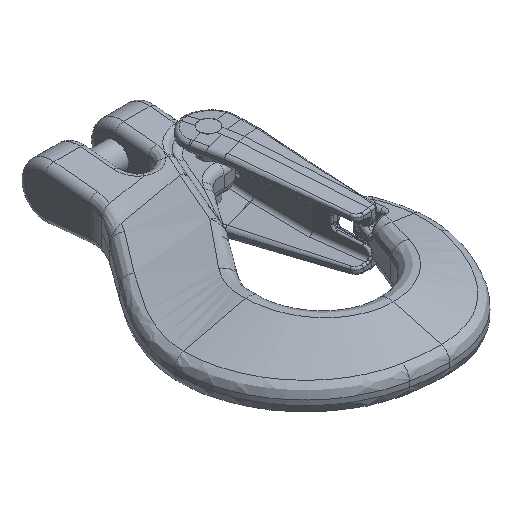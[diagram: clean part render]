
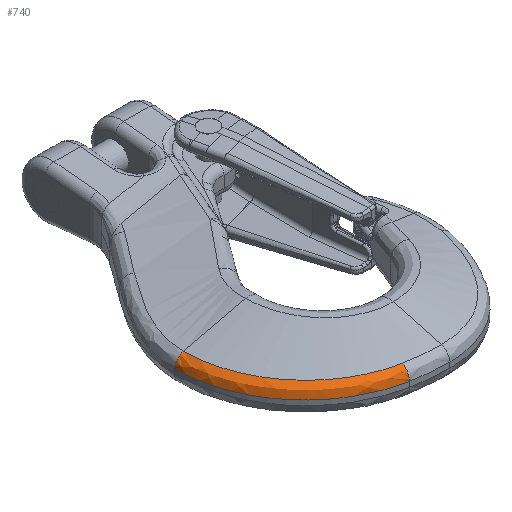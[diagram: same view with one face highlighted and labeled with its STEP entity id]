
A CAD part, isometric view. The second image highlights one B-rep face of the part: STEP entity #740.
In plain terms, the highlighted free-form (B-spline) face has degree [3, 2] with [14, 3] control points.
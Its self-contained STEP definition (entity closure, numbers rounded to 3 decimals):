
#171=(
BOUNDED_SURFACE()
B_SPLINE_SURFACE(3,2,((#13822,#13823,#13824),(#13825,#13826,#13827),(#13828,
#13829,#13830),(#13831,#13832,#13833),(#13834,#13835,#13836),(#13837,#13838,
#13839),(#13840,#13841,#13842),(#13843,#13844,#13845),(#13846,#13847,#13848),
(#13849,#13850,#13851),(#13852,#13853,#13854),(#13855,#13856,#13857),(#13858,
#13859,#13860),(#13861,#13862,#13863)),.UNSPECIFIED.,.F.,.F.,.F.)
B_SPLINE_SURFACE_WITH_KNOTS((4,2,2,2,2,2,4),(3,3),(0.,0.25,0.375,0.5,0.625,
0.75,1.),(0.,1.),.UNSPECIFIED.)
GEOMETRIC_REPRESENTATION_ITEM()
RATIONAL_B_SPLINE_SURFACE(((1.,0.793,1.),(1.,0.792,
1.),(1.,0.79,1.),(1.,0.789,1.),(1.,0.788,
1.),(1.,0.787,1.),(1.,0.787,1.),(1.,0.786,
1.),(1.,0.786,1.),(1.,0.785,1.),(1.,0.785,
1.),(1.,0.784,1.),(1.,0.784,1.),(1.,0.784,
1.)))
REPRESENTATION_ITEM('')
SURFACE()
);
#419=CIRCLE('',#6129,3.);
#740=ADVANCED_FACE('',(#1202),#171,.T.);
#1202=FACE_OUTER_BOUND('',#1571,.T.);
#1571=EDGE_LOOP('',(#3333,#3334,#3335,#3336,#3337));
#2045=B_SPLINE_CURVE_WITH_KNOTS('',3,(#12264,#12265,#12266,#12267,#12268,
#12269,#12270,#12271),.UNSPECIFIED.,.F.,.F.,(4,2,2,4),(0.,0.25,0.5,1.),.UNSPECIFIED.);
#2060=B_SPLINE_CURVE_WITH_KNOTS('',3,(#12428,#12429,#12430,#12431),.UNSPECIFIED.,
.F.,.F.,(4,4),(0.,1.),.UNSPECIFIED.);
#2073=B_SPLINE_CURVE_WITH_KNOTS('',3,(#12628,#12629,#12630,#12631,#12632,
#12633,#12634,#12635),.UNSPECIFIED.,.F.,.F.,(4,2,2,4),(0.,0.5,0.75,1.),.UNSPECIFIED.);
#2091=B_SPLINE_CURVE_WITH_KNOTS('',3,(#13735,#13736,#13737,#13738,#13739,
#13740,#13741,#13742,#13743,#13744),.UNSPECIFIED.,.F.,.F.,(4,3,3,4),(0.,
0.255,0.521,1.),.UNSPECIFIED.);
#3333=ORIENTED_EDGE('',*,*,#4992,.F.);
#3334=ORIENTED_EDGE('',*,*,#4959,.F.);
#3335=ORIENTED_EDGE('',*,*,#5049,.F.);
#3336=ORIENTED_EDGE('',*,*,#5025,.F.);
#3337=ORIENTED_EDGE('',*,*,#5047,.T.);
#4221=VERTEX_POINT('',#10614);
#4250=VERTEX_POINT('',#12262);
#4252=VERTEX_POINT('',#12272);
#4278=VERTEX_POINT('',#12432);
#4301=VERTEX_POINT('',#12636);
#4959=EDGE_CURVE('',#4250,#4252,#2045,.T.);
#4992=EDGE_CURVE('',#4252,#4278,#2060,.T.);
#5025=EDGE_CURVE('',#4221,#4301,#2073,.T.);
#5047=EDGE_CURVE('',#4221,#4278,#2091,.T.);
#5049=EDGE_CURVE('',#4301,#4250,#419,.T.);
#6129=AXIS2_PLACEMENT_3D('',#13821,#7211,#7212);
#7211=DIRECTION('',(0.982,-0.187,0.004));
#7212=DIRECTION('',(0.187,0.982,0.));
#10614=CARTESIAN_POINT('',(-35.69,0.,3.546));
#12262=CARTESIAN_POINT('',(-9.795,-34.077,0.694));
#12264=CARTESIAN_POINT('',(-9.795,-34.077,0.694));
#12265=CARTESIAN_POINT('',(-13.757,-33.323,0.679));
#12266=CARTESIAN_POINT('',(-17.521,-31.897,0.676));
#12267=CARTESIAN_POINT('',(-24.424,-27.814,0.657));
#12268=CARTESIAN_POINT('',(-27.486,-25.198,0.651));
#12269=CARTESIAN_POINT('',(-35.146,-15.939,0.632));
#12270=CARTESIAN_POINT('',(-38.,-8.065,0.627));
#12271=CARTESIAN_POINT('',(-38.,0.,0.627));
#12272=CARTESIAN_POINT('',(-38.,0.,0.627));
#12428=CARTESIAN_POINT('',(-38.,0.,0.627));
#12429=CARTESIAN_POINT('',(-38.,0.006,0.627));
#12430=CARTESIAN_POINT('',(-38.,0.013,0.627));
#12431=CARTESIAN_POINT('',(-38.,0.019,0.627));
#12432=CARTESIAN_POINT('',(-38.,0.019,0.627));
#12628=CARTESIAN_POINT('',(-35.69,0.,3.546));
#12629=CARTESIAN_POINT('',(-35.69,-7.529,3.546));
#12630=CARTESIAN_POINT('',(-33.031,-14.887,3.549));
#12631=CARTESIAN_POINT('',(-25.891,-23.546,3.563));
#12632=CARTESIAN_POINT('',(-23.036,-25.996,3.568));
#12633=CARTESIAN_POINT('',(-16.599,-29.826,3.581));
#12634=CARTESIAN_POINT('',(-13.088,-31.171,3.581));
#12635=CARTESIAN_POINT('',(-9.391,-31.887,3.593));
#12636=CARTESIAN_POINT('',(-9.391,-31.887,3.593));
#13735=CARTESIAN_POINT('',(-35.69,0.02,3.546));
#13736=CARTESIAN_POINT('',(-36.017,0.019,3.469));
#13737=CARTESIAN_POINT('',(-36.334,0.019,3.334));
#13738=CARTESIAN_POINT('',(-36.617,0.019,3.154));
#13739=CARTESIAN_POINT('',(-36.912,0.019,2.965));
#13740=CARTESIAN_POINT('',(-37.177,0.018,2.721));
#13741=CARTESIAN_POINT('',(-37.388,0.018,2.442));
#13742=CARTESIAN_POINT('',(-37.775,0.017,1.934));
#13743=CARTESIAN_POINT('',(-38.,0.019,1.265));
#13744=CARTESIAN_POINT('',(-38.,0.019,0.627));
#13821=CARTESIAN_POINT('',(-9.234,-31.129,0.694));
#13822=CARTESIAN_POINT('',(-9.391,-31.887,3.593));
#13823=CARTESIAN_POINT('',(-9.804,-34.075,2.999));
#13824=CARTESIAN_POINT('',(-9.795,-34.077,0.694));
#13825=CARTESIAN_POINT('',(-13.082,-31.172,3.581));
#13826=CARTESIAN_POINT('',(-13.754,-33.322,2.992));
#13827=CARTESIAN_POINT('',(-13.754,-33.323,0.679));
#13828=CARTESIAN_POINT('',(-16.656,-29.803,3.581));
#13829=CARTESIAN_POINT('',(-17.579,-31.874,3.001));
#13830=CARTESIAN_POINT('',(-17.573,-31.877,0.675));
#13831=CARTESIAN_POINT('',(-21.509,-26.899,3.571));
#13832=CARTESIAN_POINT('',(-22.779,-28.781,3.));
#13833=CARTESIAN_POINT('',(-22.775,-28.784,0.662));
#13834=CARTESIAN_POINT('',(-23.024,-25.802,3.568));
#13835=CARTESIAN_POINT('',(-24.404,-27.611,3.));
#13836=CARTESIAN_POINT('',(-24.401,-27.614,0.658));
#13837=CARTESIAN_POINT('',(-25.857,-23.355,3.564));
#13838=CARTESIAN_POINT('',(-27.442,-25.,3.));
#13839=CARTESIAN_POINT('',(-27.439,-25.003,0.651));
#13840=CARTESIAN_POINT('',(-27.184,-21.991,3.561));
#13841=CARTESIAN_POINT('',(-28.866,-23.543,3.));
#13842=CARTESIAN_POINT('',(-28.863,-23.547,0.647));
#13843=CARTESIAN_POINT('',(-29.563,-19.076,3.556));
#13844=CARTESIAN_POINT('',(-31.42,-20.427,2.999));
#13845=CARTESIAN_POINT('',(-31.418,-20.43,0.641));
#13846=CARTESIAN_POINT('',(-30.615,-17.532,3.554));
#13847=CARTESIAN_POINT('',(-32.549,-18.775,2.999));
#13848=CARTESIAN_POINT('',(-32.547,-18.777,0.638));
#13849=CARTESIAN_POINT('',(-32.447,-14.27,3.552));
#13850=CARTESIAN_POINT('',(-34.516,-15.284,3.));
#13851=CARTESIAN_POINT('',(-34.515,-15.286,0.634));
#13852=CARTESIAN_POINT('',(-33.233,-12.533,3.55));
#13853=CARTESIAN_POINT('',(-35.36,-13.425,3.));
#13854=CARTESIAN_POINT('',(-35.359,-13.428,0.633));
#13855=CARTESIAN_POINT('',(-35.101,-7.216,3.546));
#13856=CARTESIAN_POINT('',(-37.366,-7.732,2.999));
#13857=CARTESIAN_POINT('',(-37.366,-7.733,0.627));
#13858=CARTESIAN_POINT('',(-35.723,-3.507,3.546));
#13859=CARTESIAN_POINT('',(-38.035,-3.757,3.));
#13860=CARTESIAN_POINT('',(-38.035,-3.757,0.626));
#13861=CARTESIAN_POINT('',(-35.689,0.288,3.546));
#13862=CARTESIAN_POINT('',(-37.999,0.309,3.));
#13863=CARTESIAN_POINT('',(-37.999,0.309,0.627));
